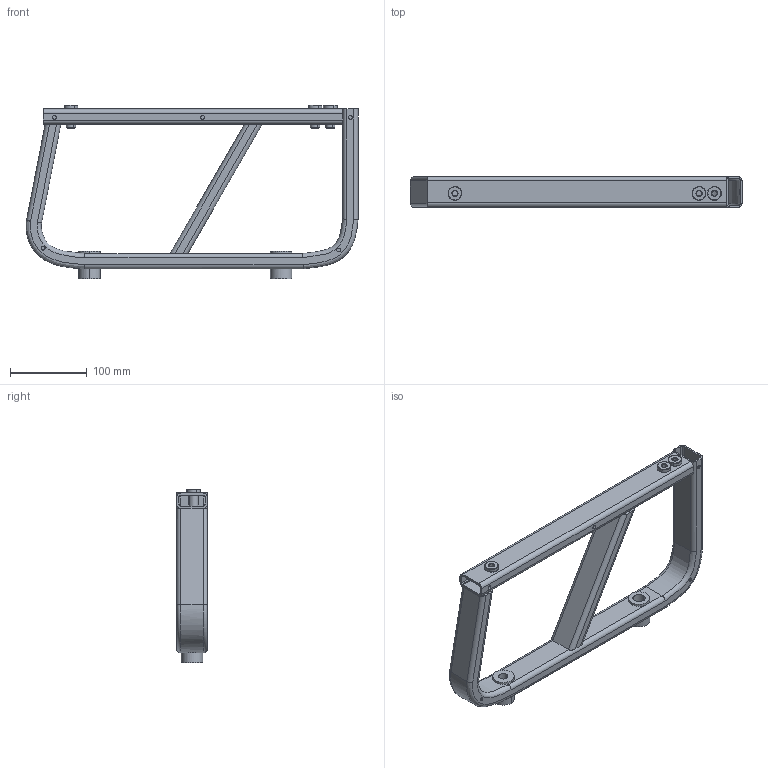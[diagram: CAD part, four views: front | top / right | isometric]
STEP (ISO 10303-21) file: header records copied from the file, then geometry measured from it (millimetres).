
FILE_DESCRIPTION(('CATIA V5 STEP Exchange'),'2;1');
FILE_NAME('C:\Users\wangyangguang\Desktop\奥杰轴套20220512\奥杰轴套\SBS0010099-主驾驶左支腿焊接总成\SBS0010099.stp','2022-05-18T08:05:35+00:00',('none'),('none'),'CATIA Version 5 Release 20 GA (IN-10)','CATIA V5 STEP AP203','none');
FILE_SCHEMA(('CONFIG_CONTROL_DESIGN'));
Length unit declared in the file: millimetre
Products named in the file (1): Part2
Bounding box: 432.56 x 40 x 226.4 mm (x, y, z)
Volume: 367948.5 mm3; surface area: 288720.4 mm2
Topology: 8 solids, 8 shells, 271 faces, 700 edges, 444 vertices
Faces by surface type: cylinder 124, plane 51, torus 36, cone 36, bspline 24
Entity records: 23606 total; most frequent: CARTESIAN_POINT 17418, ORIENTED_EDGE 1400, DIRECTION 975, EDGE_CURVE 700, AXIS2_PLACEMENT_3D 498, VERTEX_POINT 444, EDGE_LOOP 318, ADVANCED_FACE 271
